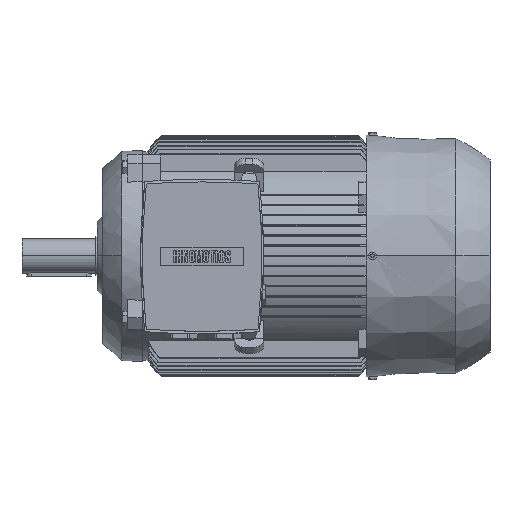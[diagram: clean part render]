
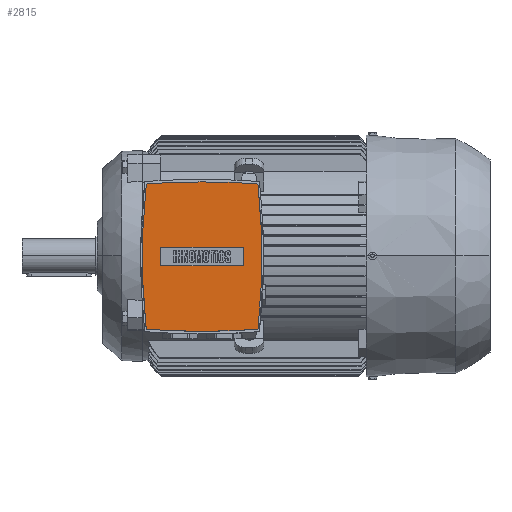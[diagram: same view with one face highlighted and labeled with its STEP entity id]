
A CAD part, top view. The second image highlights one B-rep face of the part: STEP entity #2815.
In plain terms, the highlighted planar face has unit normal (0, 0, 1).
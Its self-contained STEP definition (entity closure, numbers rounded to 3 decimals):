
#2815=ADVANCED_FACE('',(#6083,#6084),#6085,.T.);
#6083=FACE_BOUND('',#9800,.T.);
#6084=FACE_OUTER_BOUND('',#9801,.T.);
#6085=PLANE('',#9802);
#9800=EDGE_LOOP('',(#18568,#18569,#18570,#18571));
#9801=EDGE_LOOP('',(#18572,#18573,#18574,#18575,#18576,#18577));
#9802=AXIS2_PLACEMENT_3D('',#18578,#18579,#18580);
#18568=ORIENTED_EDGE('',*,*,#26004,.T.);
#18569=ORIENTED_EDGE('',*,*,#26008,.T.);
#18570=ORIENTED_EDGE('',*,*,#26011,.T.);
#18571=ORIENTED_EDGE('',*,*,#26013,.T.);
#18572=ORIENTED_EDGE('',*,*,#26081,.T.);
#18573=ORIENTED_EDGE('',*,*,#26072,.T.);
#18574=ORIENTED_EDGE('',*,*,#23298,.T.);
#18575=ORIENTED_EDGE('',*,*,#26068,.T.);
#18576=ORIENTED_EDGE('',*,*,#23283,.T.);
#18577=ORIENTED_EDGE('',*,*,#26079,.T.);
#18578=CARTESIAN_POINT('',(65.0,-1.0,214.5));
#18579=DIRECTION('',(0.0,0.0,1.0));
#18580=DIRECTION('',(0.0,-1.0,0.0));
#23283=EDGE_CURVE('',#28246,#28243,#28247,.T.);
#23298=EDGE_CURVE('',#28268,#28272,#28274,.T.);
#26004=EDGE_CURVE('',#32329,#32327,#32330,.T.);
#26008=EDGE_CURVE('',#32327,#32333,#32335,.T.);
#26011=EDGE_CURVE('',#32333,#32337,#32339,.T.);
#26013=EDGE_CURVE('',#32337,#32329,#32341,.T.);
#26068=EDGE_CURVE('',#28272,#28246,#32417,.T.);
#26072=EDGE_CURVE('',#32421,#28268,#32422,.T.);
#26079=EDGE_CURVE('',#28243,#32429,#32431,.T.);
#26081=EDGE_CURVE('',#32429,#32421,#32433,.T.);
#28243=VERTEX_POINT('',#36584);
#28246=VERTEX_POINT('',#36588);
#28247=CIRCLE('',#36589,828.12);
#28268=VERTEX_POINT('',#36652);
#28272=VERTEX_POINT('',#36657);
#28274=CIRCLE('',#36660,828.12);
#32327=VERTEX_POINT('',#48691);
#32329=VERTEX_POINT('',#48694);
#32330=LINE('',#48695,#48696);
#32333=VERTEX_POINT('',#48700);
#32335=LINE('',#48703,#48704);
#32337=VERTEX_POINT('',#48706);
#32339=LINE('',#48709,#48710);
#32341=LINE('',#48712,#48713);
#32417=CIRCLE('',#48843,717.2);
#32421=VERTEX_POINT('',#48847);
#32422=CIRCLE('',#48848,828.12);
#32429=VERTEX_POINT('',#48857);
#32431=CIRCLE('',#48860,828.12);
#32433=CIRCLE('',#48862,717.2);
#36584=CARTESIAN_POINT('',(65.,80.0,214.5));
#36588=CARTESIAN_POINT('',(125.661,77.775,214.5));
#36589=AXIS2_PLACEMENT_3D('',#53072,#53073,#53074);
#36652=CARTESIAN_POINT('',(65.,-82.0,214.5));
#36657=CARTESIAN_POINT('',(125.661,-79.775,214.5));
#36660=AXIS2_PLACEMENT_3D('',#53096,#53097,#53098);
#48691=CARTESIAN_POINT('',(20.0,-11.05,214.5));
#48694=CARTESIAN_POINT('',(110.0,-11.05,214.5));
#48695=CARTESIAN_POINT('',(65.0,-11.05,214.5));
#48696=VECTOR('',#55453,1.0);
#48700=CARTESIAN_POINT('',(20.0,9.05,214.5));
#48703=CARTESIAN_POINT('',(20.0,-1.0,214.5));
#48704=VECTOR('',#55456,1.0);
#48706=CARTESIAN_POINT('',(110.0,9.05,214.5));
#48709=CARTESIAN_POINT('',(65.0,9.05,214.5));
#48710=VECTOR('',#55458,1.0);
#48712=CARTESIAN_POINT('',(110.0,-1.0,214.5));
#48713=VECTOR('',#55459,1.0);
#48843=AXIS2_PLACEMENT_3D('',#55540,#55541,#55542);
#48847=CARTESIAN_POINT('',(4.339,-79.775,214.5));
#48848=AXIS2_PLACEMENT_3D('',#55546,#55547,#55548);
#48857=CARTESIAN_POINT('',(4.339,77.775,214.5));
#48860=AXIS2_PLACEMENT_3D('',#55555,#55556,#55557);
#48862=AXIS2_PLACEMENT_3D('',#55558,#55559,#55560);
#53072=CARTESIAN_POINT('',(65.0,-748.12,214.5));
#53073=DIRECTION('',(0.0,-0.0,1.0));
#53074=DIRECTION('',(0.0,1.0,0.0));
#53096=CARTESIAN_POINT('',(65.0,746.12,214.5));
#53097=DIRECTION('',(0.0,-0.0,1.0));
#53098=DIRECTION('',(0.0,1.0,0.0));
#55453=DIRECTION('',(-1.0,0.0,0.0));
#55456=DIRECTION('',(0.0,1.0,0.0));
#55458=DIRECTION('',(1.0,0.0,-0.0));
#55459=DIRECTION('',(0.0,-1.0,0.0));
#55540=CARTESIAN_POINT('',(-587.2,-1.0,214.5));
#55541=DIRECTION('',(0.0,-0.0,1.0));
#55542=DIRECTION('',(0.0,1.0,0.0));
#55546=CARTESIAN_POINT('',(65.0,746.12,214.5));
#55547=DIRECTION('',(0.0,-0.0,1.0));
#55548=DIRECTION('',(0.0,1.0,0.0));
#55555=CARTESIAN_POINT('',(65.0,-748.12,214.5));
#55556=DIRECTION('',(0.0,-0.0,1.0));
#55557=DIRECTION('',(0.0,1.0,0.0));
#55558=CARTESIAN_POINT('',(717.2,-1.0,214.5));
#55559=DIRECTION('',(0.0,-0.0,1.0));
#55560=DIRECTION('',(0.0,1.0,0.0));
